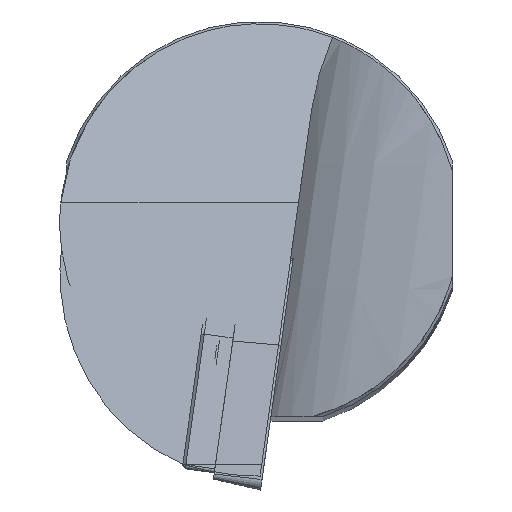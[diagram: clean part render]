
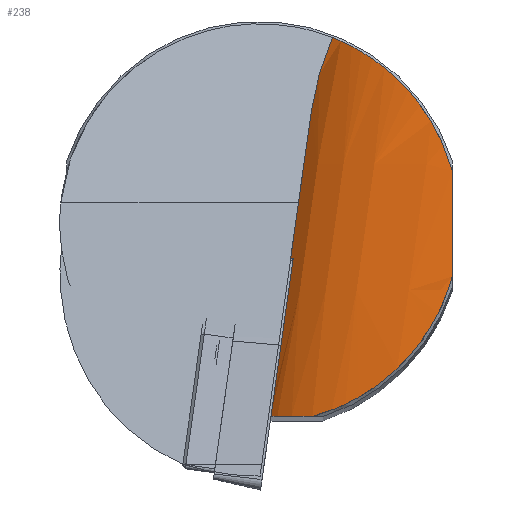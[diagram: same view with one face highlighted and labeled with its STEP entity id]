
A CAD part, top view. The second image highlights one B-rep face of the part: STEP entity #238.
In plain terms, the highlighted free-form (B-spline) face has degree [3, 3] with [4, 16] control points.
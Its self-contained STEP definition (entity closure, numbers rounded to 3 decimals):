
#101=B_SPLINE_SURFACE_WITH_KNOTS('',3,3,((#1492,#1493,#1494,#1495,#1496,
#1497,#1498,#1499,#1500,#1501,#1502,#1503,#1504,#1505,#1506,#1507),(#1508,
#1509,#1510,#1511,#1512,#1513,#1514,#1515,#1516,#1517,#1518,#1519,#1520,
#1521,#1522,#1523),(#1524,#1525,#1526,#1527,#1528,#1529,#1530,#1531,#1532,
#1533,#1534,#1535,#1536,#1537,#1538,#1539),(#1540,#1541,#1542,#1543,#1544,
#1545,#1546,#1547,#1548,#1549,#1550,#1551,#1552,#1553,#1554,#1555)),.UNSPECIFIED.,
 .F.,.F.,.F.,(4,4),(4,1,2,1,1,2,1,1,2,1,4),(0.,1.),(0.,0.14,0.25,0.28,0.42,
0.5,0.56,0.707,0.75,0.853,1.),.UNSPECIFIED.);
#104=B_SPLINE_CURVE_WITH_KNOTS('',3,(#1409,#1410,#1411,#1412,#1413,#1414,
#1415,#1416),.UNSPECIFIED.,.F.,.F.,(4,2,2,4),(0.,0.25,0.5,1.),.UNSPECIFIED.);
#108=B_SPLINE_CURVE_WITH_KNOTS('',3,(#1463,#1464,#1465,#1466,#1467,#1468,
#1469,#1470,#1471),.UNSPECIFIED.,.F.,.F.,(4,1,1,2,1,4),(0.,0.05,
0.366,0.434,0.683,1.),.UNSPECIFIED.);
#109=B_SPLINE_CURVE_WITH_KNOTS('',3,(#1472,#1473,#1474,#1475),.UNSPECIFIED.,
 .F.,.F.,(4,4),(0.,1.),.UNSPECIFIED.);
#110=B_SPLINE_CURVE_WITH_KNOTS('',3,(#1477,#1478,#1479,#1480,#1481,#1482,
#1483,#1484,#1485,#1486),.UNSPECIFIED.,.F.,.F.,(4,2,2,2,4),(0.,0.25,0.5,
0.75,1.),.UNSPECIFIED.);
#111=B_SPLINE_CURVE_WITH_KNOTS('',3,(#1488,#1489,#1490,#1491),.UNSPECIFIED.,
 .F.,.F.,(4,4),(0.,1.),.UNSPECIFIED.);
#238=ADVANCED_FACE('',(#307),#101,.T.);
#307=FACE_OUTER_BOUND('',#369,.T.);
#369=EDGE_LOOP('',(#525,#526,#527,#528,#529,#530));
#525=ORIENTED_EDGE('',*,*,#773,.T.);
#526=ORIENTED_EDGE('',*,*,#777,.F.);
#527=ORIENTED_EDGE('',*,*,#759,.T.);
#528=ORIENTED_EDGE('',*,*,#778,.F.);
#529=ORIENTED_EDGE('',*,*,#779,.T.);
#530=ORIENTED_EDGE('',*,*,#780,.F.);
#662=VERTEX_POINT('',#1417);
#663=VERTEX_POINT('',#1418);
#674=VERTEX_POINT('',#1454);
#675=VERTEX_POINT('',#1456);
#678=VERTEX_POINT('',#1476);
#679=VERTEX_POINT('',#1487);
#759=EDGE_CURVE('',#662,#663,#104,.T.);
#773=EDGE_CURVE('',#675,#674,#859,.T.);
#777=EDGE_CURVE('',#662,#674,#108,.T.);
#778=EDGE_CURVE('',#678,#663,#109,.T.);
#779=EDGE_CURVE('',#678,#679,#110,.T.);
#780=EDGE_CURVE('',#675,#679,#111,.T.);
#859=LINE('',#1455,#921);
#921=VECTOR('',#1190,1.);
#1190=DIRECTION('',(-0.139,-0.99,0.));
#1409=CARTESIAN_POINT('',(5.205,-19.,-31.614));
#1410=CARTESIAN_POINT('',(6.305,-18.698,-33.176));
#1411=CARTESIAN_POINT('',(7.599,-18.24,-34.588));
#1412=CARTESIAN_POINT('',(10.322,-16.849,-36.963));
#1413=CARTESIAN_POINT('',(11.758,-15.907,-37.936));
#1414=CARTESIAN_POINT('',(15.758,-12.35,-40.159));
#1415=CARTESIAN_POINT('',(17.978,-8.937,-40.77));
#1416=CARTESIAN_POINT('',(19.,-5.205,-40.958));
#1417=CARTESIAN_POINT('',(5.205,-19.,-31.614));
#1418=CARTESIAN_POINT('',(19.,-5.205,-40.958));
#1454=CARTESIAN_POINT('',(0.884,-19.,-17.568));
#1455=CARTESIAN_POINT('',(0.048,-24.95,-17.568));
#1456=CARTESIAN_POINT('',(5.117,11.114,-17.568));
#1463=CARTESIAN_POINT('',(5.205,-19.,-31.614));
#1464=CARTESIAN_POINT('',(5.06,-19.,-31.401));
#1465=CARTESIAN_POINT('',(4.019,-19.,-29.812));
#1466=CARTESIAN_POINT('',(3.006,-19.,-27.804));
#1467=CARTESIAN_POINT('',(2.338,-19.,-25.975));
#1468=CARTESIAN_POINT('',(1.821,-19.,-24.464));
#1469=CARTESIAN_POINT('',(1.12,-19.,-21.734));
#1470=CARTESIAN_POINT('',(0.884,-19.,-19.033));
#1471=CARTESIAN_POINT('',(0.884,-19.,-17.568));
#1472=CARTESIAN_POINT('',(19.,5.205,-40.353));
#1473=CARTESIAN_POINT('',(19.,1.736,-40.572));
#1474=CARTESIAN_POINT('',(19.,-1.734,-40.774));
#1475=CARTESIAN_POINT('',(19.,-5.205,-40.958));
#1476=CARTESIAN_POINT('',(19.,5.205,-40.353));
#1477=CARTESIAN_POINT('',(19.,5.205,-40.353));
#1478=CARTESIAN_POINT('',(18.453,7.201,-39.979));
#1479=CARTESIAN_POINT('',(17.577,9.104,-39.411));
#1480=CARTESIAN_POINT('',(15.471,12.348,-37.759));
#1481=CARTESIAN_POINT('',(14.22,13.729,-36.647));
#1482=CARTESIAN_POINT('',(11.791,15.864,-33.937));
#1483=CARTESIAN_POINT('',(10.601,16.644,-32.314));
#1484=CARTESIAN_POINT('',(8.602,17.759,-28.758));
#1485=CARTESIAN_POINT('',(7.775,18.111,-26.81));
#1486=CARTESIAN_POINT('',(7.199,18.338,-24.792));
#1487=CARTESIAN_POINT('',(7.199,18.338,-24.792));
#1488=CARTESIAN_POINT('',(5.117,11.114,-17.568));
#1489=CARTESIAN_POINT('',(5.462,13.574,-20.029));
#1490=CARTESIAN_POINT('',(6.158,15.982,-22.436));
#1491=CARTESIAN_POINT('',(7.199,18.338,-24.792));
#1492=CARTESIAN_POINT('',(6.923,23.97,-17.568));
#1493=CARTESIAN_POINT('',(6.923,23.97,-19.033));
#1494=CARTESIAN_POINT('',(7.159,23.97,-21.734));
#1495=CARTESIAN_POINT('',(7.86,23.97,-24.464));
#1496=CARTESIAN_POINT('',(8.377,23.97,-25.975));
#1497=CARTESIAN_POINT('',(9.045,23.97,-27.804));
#1498=CARTESIAN_POINT('',(10.364,23.97,-30.42));
#1499=CARTESIAN_POINT('',(11.871,23.97,-32.528));
#1500=CARTESIAN_POINT('',(12.905,23.97,-33.81));
#1501=CARTESIAN_POINT('',(14.513,23.97,-35.636));
#1502=CARTESIAN_POINT('',(16.753,23.97,-37.536));
#1503=CARTESIAN_POINT('',(18.585,23.97,-38.719));
#1504=CARTESIAN_POINT('',(20.018,23.97,-39.583));
#1505=CARTESIAN_POINT('',(22.532,23.97,-40.86));
#1506=CARTESIAN_POINT('',(25.124,23.97,-41.675));
#1507=CARTESIAN_POINT('',(26.623,23.97,-42.));
#1508=CARTESIAN_POINT('',(4.632,7.663,-17.568));
#1509=CARTESIAN_POINT('',(4.632,7.663,-19.033));
#1510=CARTESIAN_POINT('',(4.867,7.663,-21.734));
#1511=CARTESIAN_POINT('',(5.569,7.663,-24.464));
#1512=CARTESIAN_POINT('',(6.085,7.663,-25.975));
#1513=CARTESIAN_POINT('',(6.753,7.663,-27.804));
#1514=CARTESIAN_POINT('',(8.073,7.663,-30.42));
#1515=CARTESIAN_POINT('',(9.579,7.663,-32.528));
#1516=CARTESIAN_POINT('',(10.613,7.663,-33.81));
#1517=CARTESIAN_POINT('',(12.221,7.663,-35.636));
#1518=CARTESIAN_POINT('',(14.462,7.663,-37.536));
#1519=CARTESIAN_POINT('',(16.294,7.663,-38.719));
#1520=CARTESIAN_POINT('',(17.726,7.663,-39.583));
#1521=CARTESIAN_POINT('',(20.241,7.663,-40.86));
#1522=CARTESIAN_POINT('',(22.832,7.663,-41.675));
#1523=CARTESIAN_POINT('',(24.332,7.663,-42.));
#1524=CARTESIAN_POINT('',(2.34,-8.643,-17.568));
#1525=CARTESIAN_POINT('',(2.34,-8.643,-19.033));
#1526=CARTESIAN_POINT('',(2.575,-8.643,-21.734));
#1527=CARTESIAN_POINT('',(3.277,-8.643,-24.464));
#1528=CARTESIAN_POINT('',(3.793,-8.643,-25.975));
#1529=CARTESIAN_POINT('',(4.462,-8.643,-27.804));
#1530=CARTESIAN_POINT('',(5.781,-8.643,-30.42));
#1531=CARTESIAN_POINT('',(7.288,-8.643,-32.528));
#1532=CARTESIAN_POINT('',(8.321,-8.643,-33.81));
#1533=CARTESIAN_POINT('',(9.929,-8.643,-35.636));
#1534=CARTESIAN_POINT('',(12.17,-8.643,-37.536));
#1535=CARTESIAN_POINT('',(14.002,-8.643,-38.719));
#1536=CARTESIAN_POINT('',(15.435,-8.643,-39.583));
#1537=CARTESIAN_POINT('',(17.949,-8.643,-40.86));
#1538=CARTESIAN_POINT('',(20.54,-8.643,-41.675));
#1539=CARTESIAN_POINT('',(22.04,-8.643,-42.));
#1540=CARTESIAN_POINT('',(0.048,-24.95,-17.568));
#1541=CARTESIAN_POINT('',(0.048,-24.95,-19.033));
#1542=CARTESIAN_POINT('',(0.284,-24.95,-21.734));
#1543=CARTESIAN_POINT('',(0.985,-24.95,-24.464));
#1544=CARTESIAN_POINT('',(1.502,-24.95,-25.975));
#1545=CARTESIAN_POINT('',(2.17,-24.95,-27.804));
#1546=CARTESIAN_POINT('',(3.489,-24.95,-30.42));
#1547=CARTESIAN_POINT('',(4.996,-24.95,-32.528));
#1548=CARTESIAN_POINT('',(6.03,-24.95,-33.81));
#1549=CARTESIAN_POINT('',(7.638,-24.95,-35.636));
#1550=CARTESIAN_POINT('',(9.878,-24.95,-37.536));
#1551=CARTESIAN_POINT('',(11.71,-24.95,-38.719));
#1552=CARTESIAN_POINT('',(13.143,-24.95,-39.583));
#1553=CARTESIAN_POINT('',(15.657,-24.95,-40.86));
#1554=CARTESIAN_POINT('',(18.249,-24.95,-41.675));
#1555=CARTESIAN_POINT('',(19.748,-24.95,-42.));
